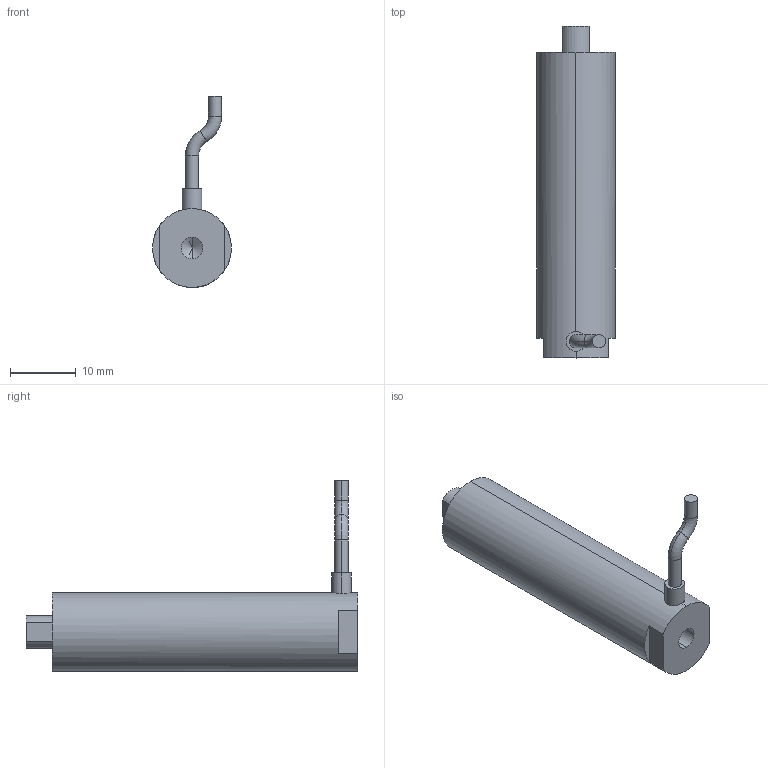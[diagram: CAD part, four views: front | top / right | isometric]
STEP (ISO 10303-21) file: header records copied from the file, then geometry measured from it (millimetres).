
FILE_DESCRIPTION (( 'STEP AP203' ), '1' );
FILE_NAME ('囀蹟恇宒40VS12.STEP', '2020-08-19T06:10:45', ( 'User' ), ( 'china' ), 'SwSTEP 2.0', 'SolidWorks 2016', '' );
FILE_SCHEMA (( 'CONFIG_CONTROL_DESIGN' ));
Length unit declared in the file: millimetre
Products named in the file (1): 囀蹟恇宒40VS12
Bounding box: 12 x 50.5 x 29.08 mm (x, y, z)
Volume: 5289.1 mm3; surface area: 2276.2 mm2
Topology: 1 solids, 1 shells, 935 faces, 2520 edges, 1674 vertices
Faces by surface type: bspline 505, plane 318, cylinder 104, torus 4, cone 4
Entity records: 43752 total; most frequent: CARTESIAN_POINT 24736, ORIENTED_EDGE 5032, EDGE_CURVE 2516, DIRECTION 1993, VERTEX_POINT 1674, B_SPLINE_CURVE_WITH_KNOTS 1665, EDGE_LOOP 1026, ADVANCED_FACE 935
